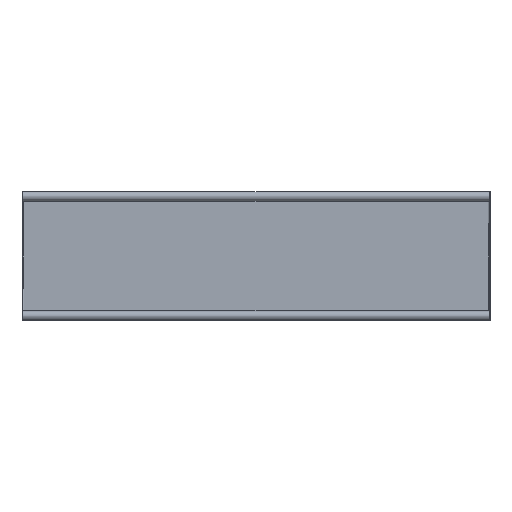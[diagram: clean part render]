
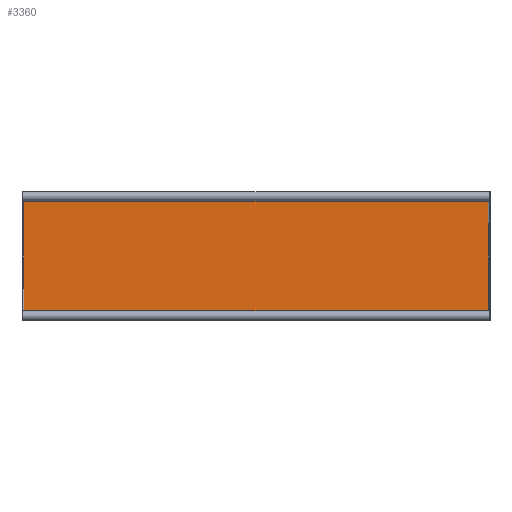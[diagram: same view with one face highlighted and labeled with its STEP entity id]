
A CAD part, front view. The second image highlights one B-rep face of the part: STEP entity #3360.
In plain terms, the highlighted planar face has unit normal (0, -1, 0).
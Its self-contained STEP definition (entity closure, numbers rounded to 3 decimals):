
#76 = AXIS2_PLACEMENT_3D ( 'NONE', #1170, #2767, #8901 ) ;
#149 = ORIENTED_EDGE ( 'NONE', *, *, #9104, .T. ) ;
#485 = CARTESIAN_POINT ( 'NONE',  ( 496., -2., -132.5 ) ) ;
#487 = AXIS2_PLACEMENT_3D ( 'NONE', #6795, #2096, #9870 ) ;
#551 = CARTESIAN_POINT ( 'NONE',  ( 496., -2., 132.5 ) ) ;
#678 = CIRCLE ( 'NONE', #9622, 5. ) ;
#1170 = CARTESIAN_POINT ( 'NONE',  ( 499., -2., 136.5 ) ) ;
#1189 = EDGE_CURVE ( 'NONE', #6195, #1764, #6545, .T. ) ;
#1368 = CARTESIAN_POINT ( 'NONE',  ( -496., -2., -132.5 ) ) ;
#1748 = CARTESIAN_POINT ( 'NONE',  ( -499., -2., -133.5 ) ) ;
#1749 = EDGE_CURVE ( 'NONE', #9663, #3502, #1870, .T. ) ;
#1764 = VERTEX_POINT ( 'NONE', #8949 ) ;
#1861 = EDGE_CURVE ( 'NONE', #1764, #9663, #678, .T. ) ;
#1870 = LINE ( 'NONE', #5087, #6885 ) ;
#2019 = DIRECTION ( 'NONE',  ( 1., 0., 0. ) ) ;
#2089 = EDGE_CURVE ( 'NONE', #3863, #6948, #7852, .T. ) ;
#2096 = DIRECTION ( 'NONE',  ( 0., -1., 0. ) ) ;
#2141 = EDGE_CURVE ( 'NONE', #7606, #6948, #6952, .T. ) ;
#2162 = DIRECTION ( 'NONE',  ( 0., -1., 0. ) ) ;
#2403 = ORIENTED_EDGE ( 'NONE', *, *, #1189, .F. ) ;
#2724 = VECTOR ( 'NONE', #8516, 1000. ) ;
#2767 = DIRECTION ( 'NONE',  ( 0., -1., 0. ) ) ;
#2799 = CARTESIAN_POINT ( 'NONE',  ( -499., -2., -136.5 ) ) ;
#3140 = ORIENTED_EDGE ( 'NONE', *, *, #4764, .F. ) ;
#3264 = CIRCLE ( 'NONE', #8089, 5. ) ;
#3288 = DIRECTION ( 'NONE',  ( 0., 0., 1. ) ) ;
#3339 = CARTESIAN_POINT ( 'NONE',  ( -496., -2., -136.5 ) ) ;
#3360 = ADVANCED_FACE ( 'NONE', ( #4527 ), #5987, .F. ) ;
#3502 = VERTEX_POINT ( 'NONE', #4834 ) ;
#3612 = VERTEX_POINT ( 'NONE', #551 ) ;
#3863 = VERTEX_POINT ( 'NONE', #485 ) ;
#4061 = CARTESIAN_POINT ( 'NONE',  ( 496., -2., -136.5 ) ) ;
#4295 = ORIENTED_EDGE ( 'NONE', *, *, #4624, .F. ) ;
#4527 = FACE_OUTER_BOUND ( 'NONE', #7851, .T. ) ;
#4624 = EDGE_CURVE ( 'NONE', #3502, #3612, #8560, .T. ) ;
#4725 = CARTESIAN_POINT ( 'NONE',  ( -499., -2., -136.5 ) ) ;
#4764 = EDGE_CURVE ( 'NONE', #7606, #6195, #3264, .T. ) ;
#4834 = CARTESIAN_POINT ( 'NONE',  ( 495., -2., 133.5 ) ) ;
#4899 = ORIENTED_EDGE ( 'NONE', *, *, #1861, .F. ) ;
#5087 = CARTESIAN_POINT ( 'NONE',  ( -499., -2., 133.5 ) ) ;
#5135 = CARTESIAN_POINT ( 'NONE',  ( -495., -2., -133.5 ) ) ;
#5140 = DIRECTION ( 'NONE',  ( 0., 0., 1. ) ) ;
#5373 = DIRECTION ( 'NONE',  ( 0., -1., 0. ) ) ;
#5624 = LINE ( 'NONE', #4061, #7653 ) ;
#5841 = DIRECTION ( 'NONE',  ( 0., 1., 0. ) ) ;
#5987 = PLANE ( 'NONE',  #8677 ) ;
#6195 = VERTEX_POINT ( 'NONE', #1368 ) ;
#6203 = DIRECTION ( 'NONE',  ( 0., 0., 1. ) ) ;
#6208 = ORIENTED_EDGE ( 'NONE', *, *, #2141, .T. ) ;
#6442 = CARTESIAN_POINT ( 'NONE',  ( 495., -2., -133.5 ) ) ;
#6545 = LINE ( 'NONE', #3339, #8350 ) ;
#6795 = CARTESIAN_POINT ( 'NONE',  ( 499., -2., -136.5 ) ) ;
#6885 = VECTOR ( 'NONE', #2019, 1000. ) ;
#6948 = VERTEX_POINT ( 'NONE', #6442 ) ;
#6952 = LINE ( 'NONE', #1748, #2724 ) ;
#7035 = CARTESIAN_POINT ( 'NONE',  ( -495., -2., 133.5 ) ) ;
#7606 = VERTEX_POINT ( 'NONE', #5135 ) ;
#7653 = VECTOR ( 'NONE', #9023, 1000. ) ;
#7725 = DIRECTION ( 'NONE',  ( 0., 0., 1. ) ) ;
#7851 = EDGE_LOOP ( 'NONE', ( #8390, #149, #4295, #9911, #4899, #2403, #3140, #6208 ) ) ;
#7852 = CIRCLE ( 'NONE', #487, 5. ) ;
#8089 = AXIS2_PLACEMENT_3D ( 'NONE', #4725, #2162, #5140 ) ;
#8350 = VECTOR ( 'NONE', #3288, 1000. ) ;
#8390 = ORIENTED_EDGE ( 'NONE', *, *, #2089, .F. ) ;
#8516 = DIRECTION ( 'NONE',  ( 1., 0., 0. ) ) ;
#8560 = CIRCLE ( 'NONE', #76, 5. ) ;
#8571 = CARTESIAN_POINT ( 'NONE',  ( -499., -2., 136.5 ) ) ;
#8677 = AXIS2_PLACEMENT_3D ( 'NONE', #2799, #5841, #7725 ) ;
#8901 = DIRECTION ( 'NONE',  ( 0., 0., 1. ) ) ;
#8949 = CARTESIAN_POINT ( 'NONE',  ( -496., -2., 132.5 ) ) ;
#9023 = DIRECTION ( 'NONE',  ( 0., 0., 1. ) ) ;
#9104 = EDGE_CURVE ( 'NONE', #3863, #3612, #5624, .T. ) ;
#9622 = AXIS2_PLACEMENT_3D ( 'NONE', #8571, #5373, #6203 ) ;
#9663 = VERTEX_POINT ( 'NONE', #7035 ) ;
#9870 = DIRECTION ( 'NONE',  ( 0., 0., 1. ) ) ;
#9911 = ORIENTED_EDGE ( 'NONE', *, *, #1749, .F. ) ;
